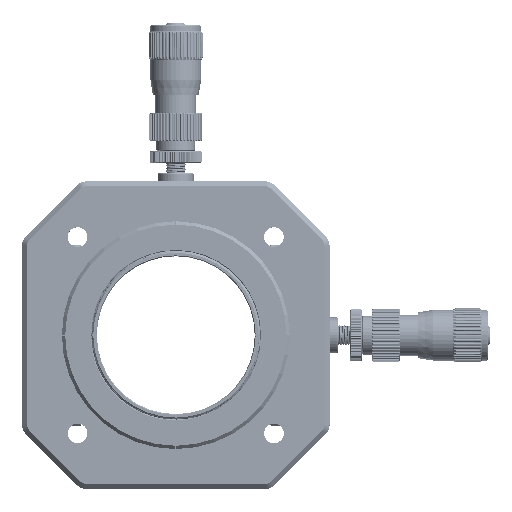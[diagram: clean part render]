
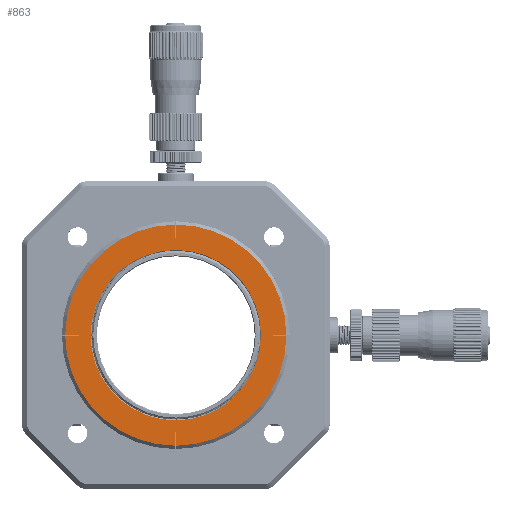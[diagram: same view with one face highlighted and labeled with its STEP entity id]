
A CAD part, top view. The second image highlights one B-rep face of the part: STEP entity #863.
In plain terms, the highlighted planar face has unit normal (0, 0, 1).
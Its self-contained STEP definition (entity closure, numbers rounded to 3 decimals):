
#2=DIRECTION('',(1.,0.,0.));
#3=VECTOR('',#2,4.063);
#4=CARTESIAN_POINT('',(-25.145,-0.19,3.302));
#5=LINE('',#4,#3);
#9=CARTESIAN_POINT('',(-25.145,-0.19,3.302));
#19=DIRECTION('',(0.,-1.,0.));
#20=VECTOR('',#19,0.381);
#21=CARTESIAN_POINT('',(-21.082,0.19,3.302));
#22=LINE('',#21,#20);
#23=DIRECTION('',(1.,0.,0.));
#24=VECTOR('',#23,4.063);
#25=CARTESIAN_POINT('',(-25.145,0.19,3.302));
#26=LINE('',#25,#24);
#27=CARTESIAN_POINT('',(8.636,0.,3.302));
#28=DIRECTION('',(0.,0.,1.));
#29=DIRECTION('',(-0.006,1.,0.));
#30=AXIS2_PLACEMENT_3D('',#27,#28,#29);
#32=DIRECTION('',(-1.,0.,0.));
#33=VECTOR('',#32,0.381);
#34=CARTESIAN_POINT('',(8.827,29.718,3.302));
#35=LINE('',#34,#33);
#36=DIRECTION('',(0.,-1.,0.));
#37=VECTOR('',#36,4.063);
#38=CARTESIAN_POINT('',(8.826,33.781,3.302));
#39=LINE('',#38,#37);
#40=CARTESIAN_POINT('',(8.636,0.,3.302));
#41=DIRECTION('',(0.,0.,1.));
#42=DIRECTION('',(1.,0.006,0.));
#43=AXIS2_PLACEMENT_3D('',#40,#41,#42);
#45=DIRECTION('',(0.,1.,0.));
#46=VECTOR('',#45,0.381);
#47=CARTESIAN_POINT('',(38.354,-0.191,3.302));
#48=LINE('',#47,#46);
#49=DIRECTION('',(-1.,0.,0.));
#50=VECTOR('',#49,4.063);
#51=CARTESIAN_POINT('',(42.417,-0.19,3.302));
#52=LINE('',#51,#50);
#53=CARTESIAN_POINT('',(8.636,0.,3.302));
#54=DIRECTION('',(0.,0.,1.));
#55=DIRECTION('',(0.006,-1.,0.));
#56=AXIS2_PLACEMENT_3D('',#53,#54,#55);
#58=DIRECTION('',(1.,0.,0.));
#59=VECTOR('',#58,0.381);
#60=CARTESIAN_POINT('',(8.446,-29.718,3.302));
#61=LINE('',#60,#59);
#62=DIRECTION('',(0.,1.,0.));
#63=VECTOR('',#62,4.063);
#64=CARTESIAN_POINT('',(8.446,-33.781,3.302));
#65=LINE('',#64,#63);
#66=CARTESIAN_POINT('',(8.636,0.,3.302));
#67=DIRECTION('',(0.,0.,1.));
#68=DIRECTION('',(-1.,-0.006,0.));
#69=AXIS2_PLACEMENT_3D('',#66,#67,#68);
#71=CARTESIAN_POINT('',(8.636,0.,3.302));
#72=DIRECTION('',(0.,0.,-1.));
#73=DIRECTION('',(-1.,0.,0.));
#74=AXIS2_PLACEMENT_3D('',#71,#72,#73);
#76=CARTESIAN_POINT('',(8.636,0.,3.302));
#77=DIRECTION('',(0.,0.,-1.));
#78=DIRECTION('',(1.,0.,0.));
#79=AXIS2_PLACEMENT_3D('',#76,#77,#78);
#161=DIRECTION('',(0.,1.,0.));
#162=VECTOR('',#161,4.063);
#163=CARTESIAN_POINT('',(8.826,-33.781,3.302));
#164=LINE('',#163,#162);
#192=DIRECTION('',(-1.,0.,0.));
#193=VECTOR('',#192,4.063);
#194=CARTESIAN_POINT('',(42.417,0.19,3.302));
#195=LINE('',#194,#193);
#199=CARTESIAN_POINT('',(42.417,0.19,3.302));
#223=DIRECTION('',(0.,-1.,0.));
#224=VECTOR('',#223,4.063);
#225=CARTESIAN_POINT('',(8.446,33.781,3.302));
#226=LINE('',#225,#224);
#705=CARTESIAN_POINT('',(8.446,-29.718,3.302));
#707=VERTEX_POINT('',#705);
#709=CARTESIAN_POINT('',(8.826,-33.781,3.302));
#710=CARTESIAN_POINT('',(8.827,-29.718,3.302));
#711=VERTEX_POINT('',#709);
#712=VERTEX_POINT('',#710);
#713=CARTESIAN_POINT('',(-17.399,0.,3.302));
#714=CARTESIAN_POINT('',(34.671,0.,3.302));
#715=VERTEX_POINT('',#713);
#716=VERTEX_POINT('',#714);
#717=CARTESIAN_POINT('',(42.417,-0.191,3.302));
#718=VERTEX_POINT('',#717);
#723=CARTESIAN_POINT('',(8.826,33.781,3.302));
#724=CARTESIAN_POINT('',(8.827,29.718,3.302));
#725=VERTEX_POINT('',#723);
#726=VERTEX_POINT('',#724);
#728=VERTEX_POINT('',#9);
#733=CARTESIAN_POINT('',(38.354,-0.191,3.302));
#734=VERTEX_POINT('',#733);
#737=CARTESIAN_POINT('',(8.446,33.781,3.302));
#738=CARTESIAN_POINT('',(-25.145,0.19,3.302));
#739=VERTEX_POINT('',#737);
#740=VERTEX_POINT('',#738);
#742=CARTESIAN_POINT('',(-21.082,0.19,3.302));
#744=VERTEX_POINT('',#742);
#746=CARTESIAN_POINT('',(38.354,0.19,3.302));
#747=VERTEX_POINT('',#746);
#754=CARTESIAN_POINT('',(8.446,-33.781,3.302));
#755=VERTEX_POINT('',#754);
#758=CARTESIAN_POINT('',(8.446,29.718,3.302));
#759=VERTEX_POINT('',#758);
#764=CARTESIAN_POINT('',(-21.082,-0.191,3.302));
#765=VERTEX_POINT('',#764);
#773=VERTEX_POINT('',#199);
#819=CARTESIAN_POINT('',(8.636,33.782,3.302));
#820=DIRECTION('',(0.,0.,-1.));
#821=DIRECTION('',(-1.,0.,0.));
#822=AXIS2_PLACEMENT_3D('',#819,#820,#821);
#823=PLANE('',#822);
#825=ORIENTED_EDGE('',*,*,#824,.F.);
#827=ORIENTED_EDGE('',*,*,#826,.F.);
#829=ORIENTED_EDGE('',*,*,#828,.F.);
#831=ORIENTED_EDGE('',*,*,#830,.T.);
#833=ORIENTED_EDGE('',*,*,#832,.F.);
#835=ORIENTED_EDGE('',*,*,#834,.F.);
#837=ORIENTED_EDGE('',*,*,#836,.F.);
#839=ORIENTED_EDGE('',*,*,#838,.T.);
#841=ORIENTED_EDGE('',*,*,#840,.F.);
#843=ORIENTED_EDGE('',*,*,#842,.F.);
#845=ORIENTED_EDGE('',*,*,#844,.F.);
#847=ORIENTED_EDGE('',*,*,#846,.T.);
#849=ORIENTED_EDGE('',*,*,#848,.F.);
#851=ORIENTED_EDGE('',*,*,#850,.F.);
#853=ORIENTED_EDGE('',*,*,#852,.F.);
#854=ORIENTED_EDGE('',*,*,#808,.T.);
#855=EDGE_LOOP('',(#825,#827,#829,#831,#833,#835,#837,#839,#841,#843,#845,#847,
#849,#851,#853,#854));
#856=FACE_OUTER_BOUND('',#855,.F.);
#858=ORIENTED_EDGE('',*,*,#857,.F.);
#860=ORIENTED_EDGE('',*,*,#859,.F.);
#861=EDGE_LOOP('',(#858,#860));
#862=FACE_BOUND('',#861,.F.);
#863=ADVANCED_FACE('',(#856,#862),#823,.F.);
#31=CIRCLE('',#30,33.782);
#44=CIRCLE('',#43,33.782);
#57=CIRCLE('',#56,33.782);
#70=CIRCLE('',#69,33.782);
#75=CIRCLE('',#74,26.035);
#80=CIRCLE('',#79,26.035);
#808=EDGE_CURVE('',#728,#765,#5,.T.);
#824=EDGE_CURVE('',#744,#765,#22,.T.);
#826=EDGE_CURVE('',#740,#744,#26,.T.);
#828=EDGE_CURVE('',#739,#740,#31,.T.);
#830=EDGE_CURVE('',#739,#759,#226,.T.);
#832=EDGE_CURVE('',#726,#759,#35,.T.);
#834=EDGE_CURVE('',#725,#726,#39,.T.);
#836=EDGE_CURVE('',#773,#725,#44,.T.);
#838=EDGE_CURVE('',#773,#747,#195,.T.);
#840=EDGE_CURVE('',#734,#747,#48,.T.);
#842=EDGE_CURVE('',#718,#734,#52,.T.);
#844=EDGE_CURVE('',#711,#718,#57,.T.);
#846=EDGE_CURVE('',#711,#712,#164,.T.);
#848=EDGE_CURVE('',#707,#712,#61,.T.);
#850=EDGE_CURVE('',#755,#707,#65,.T.);
#852=EDGE_CURVE('',#728,#755,#70,.T.);
#857=EDGE_CURVE('',#715,#716,#75,.T.);
#859=EDGE_CURVE('',#716,#715,#80,.T.);
